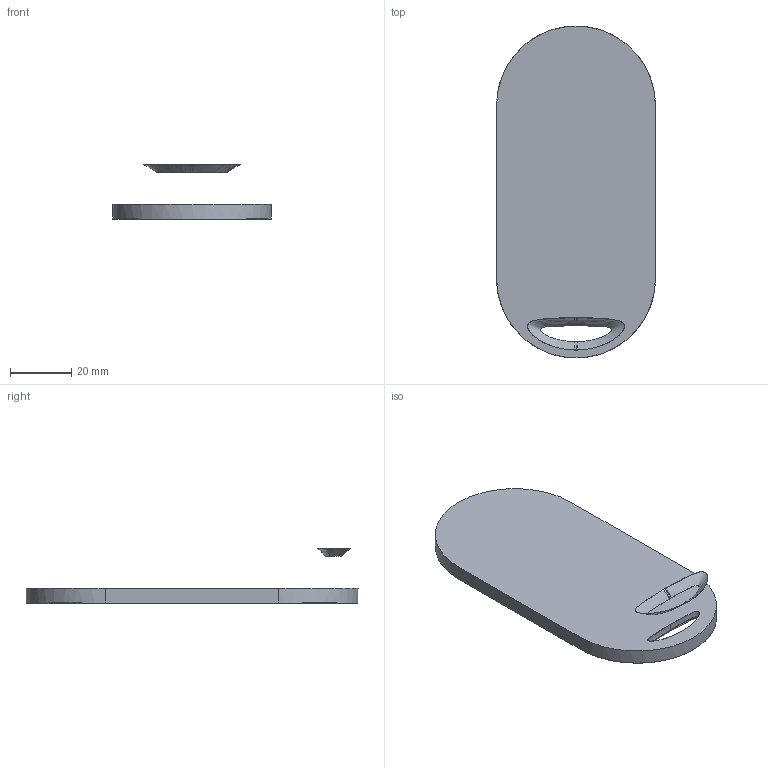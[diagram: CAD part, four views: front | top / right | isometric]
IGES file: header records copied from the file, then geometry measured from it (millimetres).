
Start section:  PTC IGES file: id-gtc-rear-pre_prt.igs
Global section: file name: id-gtc-rear-pre_prt.igs; native system: Pro/ENGINEER by Parametric Technology Corporation; preprocessor: 2006170; author: GRA; organization: Unknown; date: 20080630.105156; units: millimetre
Bounding box: 52 x 108.7 x 18.01 mm (x, y, z)
Surface area: 12390.7 mm2 (no closed solid volume)
Topology: 0 solids, 0 shells, 22 faces, 130 edges, 144 vertices
Faces by surface type: bspline 16, extrusion 4, revolution 2
